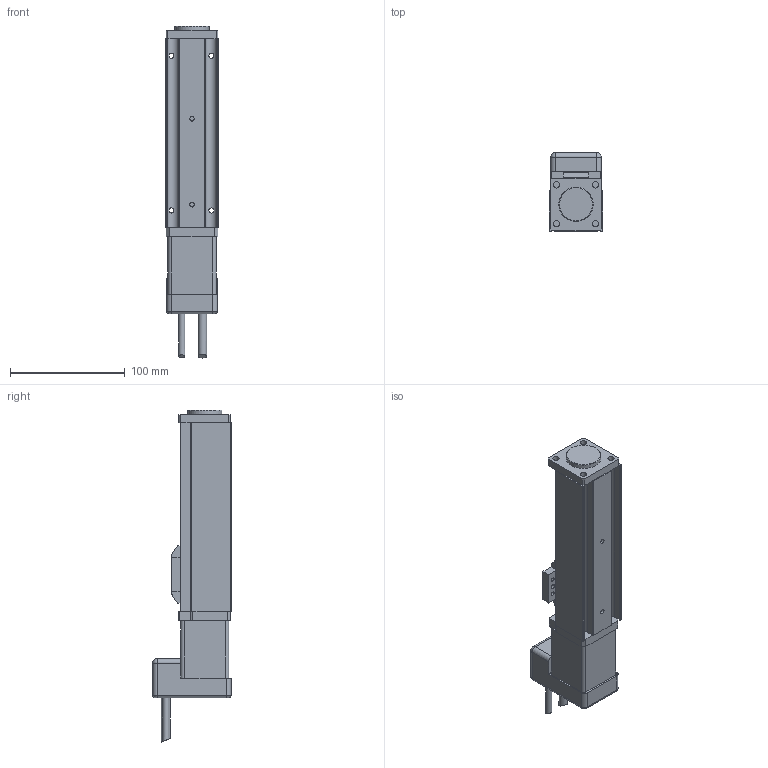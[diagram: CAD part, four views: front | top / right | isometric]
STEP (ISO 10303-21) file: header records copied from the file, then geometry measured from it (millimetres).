
FILE_DESCRIPTION(/* description */ ('Alibre Inc.'),/* implementation_level */ '2;1');
FILE_NAME(/* name */ 'export0',/* time_stamp */ '2011-08-02T10:15:10-04:00',/* author */ (''),/* organization */ (''),/* preprocessor_version */ 'ST-DEVELOPER v10',/* originating_system */ 'Alibre',/* authorisation */ '');
FILE_SCHEMA (('CONFIG_CONTROL_DESIGN'));
Length unit declared in the file: centimetre
Products named in the file (3): ID_1; ID_2
Bounding box: 47 x 68.8 x 289.76 mm (x, y, z)
Volume: 472192.3 mm3; surface area: 71350.2 mm2
Topology: 2 solids, 2 shells, 180 faces, 469 edges, 301 vertices
Faces by surface type: plane 98, cylinder 71, cone 5, torus 4, sphere 2
Full cylindrical faces by diameter (mm): 2.459 x3, 2.5 x1, 3.242 x4, 4 x4, 4.5 x4, 5 x1, 5.5 x5, 7.5 x1, 8 x4, 12 x1, 22 x1, 30 x1
Entity records: 5408 total; most frequent: CARTESIAN_POINT 988, ORIENTED_EDGE 830, DIRECTION 782, EDGE_CURVE 415, AXIS2_PLACEMENT_3D 313, VERTEX_POINT 288, FACE_BOUND 259, EDGE_LOOP 255
